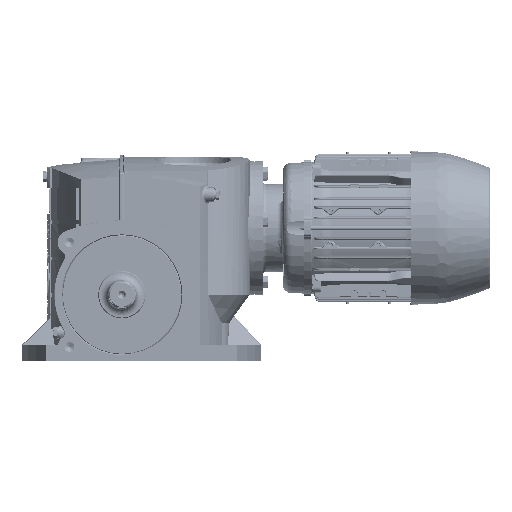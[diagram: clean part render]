
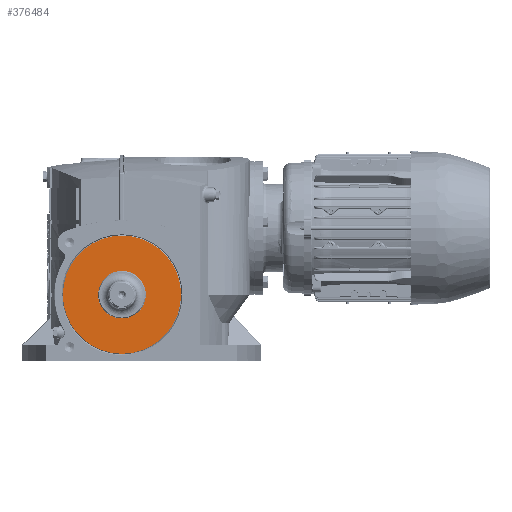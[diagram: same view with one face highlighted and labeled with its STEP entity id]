
A CAD part, left-side view. The second image highlights one B-rep face of the part: STEP entity #376484.
In plain terms, the highlighted planar face has unit normal (-1, 0, 0).
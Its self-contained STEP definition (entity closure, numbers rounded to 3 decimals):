
#4314 = DIRECTION ( 'NONE',  ( 0., 0., 1. ) ) ;
#17931 = CIRCLE ( 'NONE', #80054, 62. ) ;
#27633 = ORIENTED_EDGE ( 'NONE', *, *, #199876, .T. ) ;
#52503 = VERTEX_POINT ( 'NONE', #412653 ) ;
#80054 = AXIS2_PLACEMENT_3D ( 'NONE', #509637, #252803, #552596 ) ;
#89013 = DIRECTION ( 'NONE',  ( -1., 0., 0. ) ) ;
#104406 = AXIS2_PLACEMENT_3D ( 'NONE', #106055, #406021, #149124 ) ;
#106055 = CARTESIAN_POINT ( 'NONE',  ( -74.5, 0., 0. ) ) ;
#121107 = CARTESIAN_POINT ( 'NONE',  ( -74.5, 0., -25. ) ) ;
#127223 = DIRECTION ( 'NONE',  ( 1., 0., 0. ) ) ;
#149124 = DIRECTION ( 'NONE',  ( 0., 0., 1. ) ) ;
#167267 = EDGE_LOOP ( 'NONE', ( #469463, #546868 ) ) ;
#199876 = EDGE_CURVE ( 'NONE', #460404, #52503, #17931, .T. ) ;
#203206 = EDGE_LOOP ( 'NONE', ( #27633, #415497 ) ) ;
#209603 = EDGE_CURVE ( 'NONE', #330910, #527365, #356548, .T. ) ;
#211534 = PLANE ( 'NONE',  #269224 ) ;
#221511 = EDGE_CURVE ( 'NONE', #527365, #330910, #530260, .T. ) ;
#230434 = FACE_OUTER_BOUND ( 'NONE', #203206, .T. ) ;
#252803 = DIRECTION ( 'NONE',  ( -1., 0., 0. ) ) ;
#261178 = DIRECTION ( 'NONE',  ( -1., 0., 0. ) ) ;
#269224 = AXIS2_PLACEMENT_3D ( 'NONE', #384133, #127223, #427182 ) ;
#330910 = VERTEX_POINT ( 'NONE', #121107 ) ;
#345789 = CARTESIAN_POINT ( 'NONE',  ( -74.5, 0., 0. ) ) ;
#356548 = CIRCLE ( 'NONE', #431127, 25. ) ;
#375412 = CARTESIAN_POINT ( 'NONE',  ( -74.5, 0., 25. ) ) ;
#376484 = ADVANCED_FACE ( 'NONE', ( #444988, #230434 ), #211534, .F. ) ;
#383348 = CARTESIAN_POINT ( 'NONE',  ( -74.5, 0., -62. ) ) ;
#384133 = CARTESIAN_POINT ( 'NONE',  ( -74.5, 62., 0. ) ) ;
#388975 = DIRECTION ( 'NONE',  ( 0., 0., 1. ) ) ;
#406021 = DIRECTION ( 'NONE',  ( -1., 0., 0. ) ) ;
#412653 = CARTESIAN_POINT ( 'NONE',  ( -74.5, 0., 62. ) ) ;
#415497 = ORIENTED_EDGE ( 'NONE', *, *, #503077, .T. ) ;
#427182 = DIRECTION ( 'NONE',  ( 0., 0., -1. ) ) ;
#431127 = AXIS2_PLACEMENT_3D ( 'NONE', #517918, #261178, #4314 ) ;
#444988 = FACE_BOUND ( 'NONE', #167267, .T. ) ;
#460404 = VERTEX_POINT ( 'NONE', #383348 ) ;
#465814 = CIRCLE ( 'NONE', #104406, 62. ) ;
#468300 = AXIS2_PLACEMENT_3D ( 'NONE', #345789, #89013, #388975 ) ;
#469463 = ORIENTED_EDGE ( 'NONE', *, *, #221511, .F. ) ;
#503077 = EDGE_CURVE ( 'NONE', #52503, #460404, #465814, .T. ) ;
#509637 = CARTESIAN_POINT ( 'NONE',  ( -74.5, 0., 0. ) ) ;
#517918 = CARTESIAN_POINT ( 'NONE',  ( -74.5, 0., 0. ) ) ;
#527365 = VERTEX_POINT ( 'NONE', #375412 ) ;
#530260 = CIRCLE ( 'NONE', #468300, 25. ) ;
#546868 = ORIENTED_EDGE ( 'NONE', *, *, #209603, .F. ) ;
#552596 = DIRECTION ( 'NONE',  ( 0., 0., 1. ) ) ;
